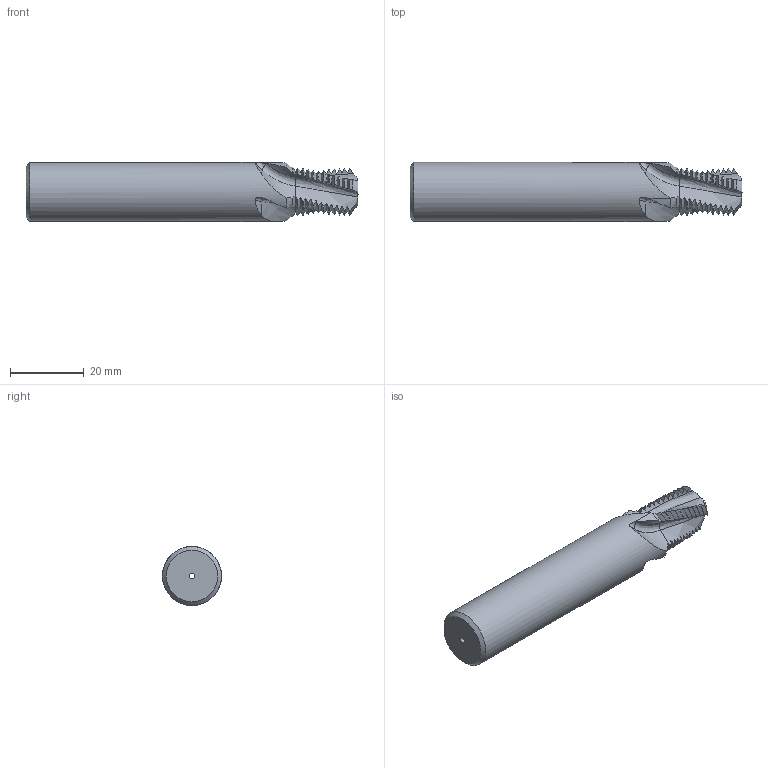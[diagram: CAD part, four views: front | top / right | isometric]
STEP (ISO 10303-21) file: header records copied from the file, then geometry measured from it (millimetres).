
FILE_DESCRIPTION(/* description */ (''),/* implementation_level */ '2;1');
FILE_NAME(/* name */ '171610-00036539-STEP',/* time_stamp */ '2024-02-21T13:12:48+01:00',/* author */ (''),/* organization */ (''),/* preprocessor_version */ 'ST-DEVELOPER v16.5',/* originating_system */ 'HiCAD 2017 2201.0 Build 268',/* authorisation */ '');
FILE_SCHEMA (('AUTOMOTIVE_DESIGN { 1 0 10303 214 1 1 1 1 }'));
Length unit declared in the file: millimetre
Products named in the file (2): Root; ROTATIONSTEIL_0
Assembly tree (1 placements, depth 2):
  Root
    ROTATIONSTEIL_0
Bounding box: 90 x 16 x 16 mm (x, y, z)
Volume: 14861.4 mm3; surface area: 5281 mm2
Topology: 1 solids, 1 shells, 242 faces, 819 edges, 579 vertices
Faces by surface type: cone 101, torus 92, bspline 36, cylinder 11, plane 2
Full cylindrical faces by diameter (mm): 1.5 x1, 16 x1
Entity records: 28284 total; most frequent: CARTESIAN_POINT 14639, PRESENTATION_STYLE_ASSIGNMENT 1623, COLOUR_RGB 1623, DRAUGHTING_PRE_DEFINED_CURVE_FONT 1622, CURVE_STYLE 1622, OVER_RIDING_STYLED_ITEM 1622, ORIENTED_EDGE 1622, DIRECTION 880
